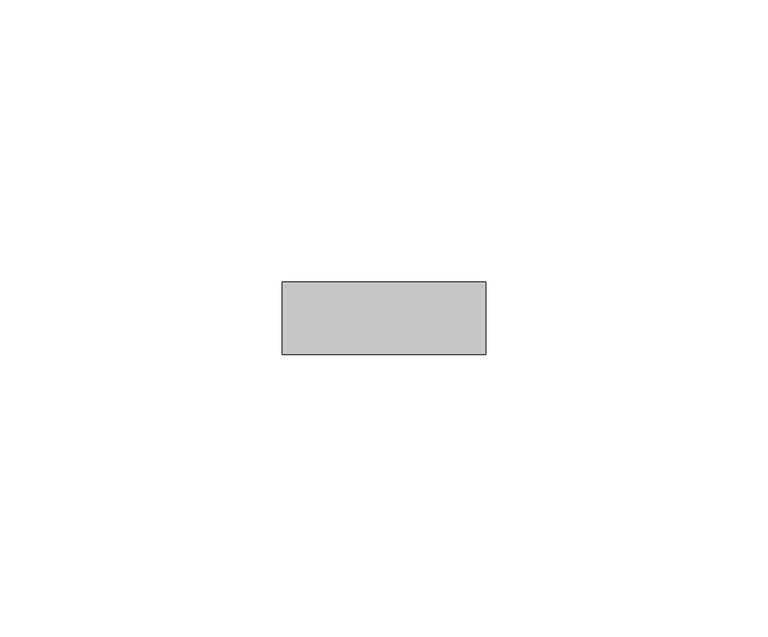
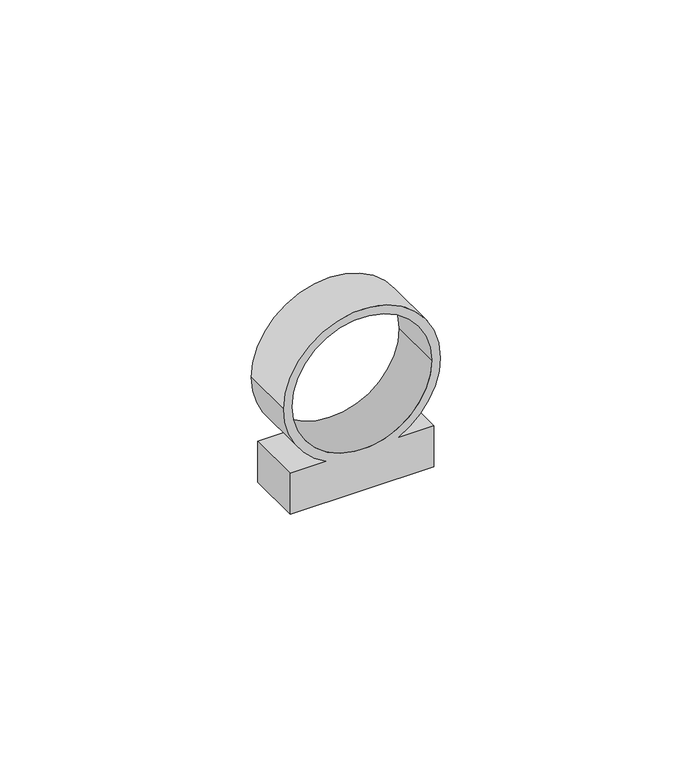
"""IFC4 building model written with IfcOpenShell, lengths in millimetres: cable carrier fitting geometry."""

from ifc_helpers import new_model, si_unit, point, frame, frame_2d, origin, place, context, project, spatial, polyline, circle_curve, trimmed, segment, composite_curve, outline, extrude, source, transform, mapped, element, save


def cable_carrier_fitting_328e0a5f(model_context):
    return source(origin(), model_context, "Body", "SweptSolid", [
        extrude(outline(composite_curve([segment(trimmed(circle_curve(frame_2d((26.0, 0.0)), 18.0), [point((26.0, 18.0))], [point((26.0, -18.0))], False, "CARTESIAN"), True, "CONTINUOUS"), segment(trimmed(circle_curve(frame_2d((26.0, 0.0)), 18.0), [point((26.0, -18.0))], [point((10.0, -8.2462113))], False, "CARTESIAN"), True, "CONTINUOUS"), segment(polyline([(10.0, -8.2462113), (10.0, -16.5), (0.0, -16.5), (0.0, 16.5), (10.0, 16.5), (10.0, 8.2462113)]), True, "CONTINUOUS"), segment(trimmed(circle_curve(frame_2d((26.0, 0.0)), 18.0), [point((10.0, 8.2462113))], [point((26.0, 18.0))], False, "CARTESIAN"), True, "CONTINUOUS")], self_intersect=False), holes=[composite_curve([segment(trimmed(circle_curve(frame_2d((26.0, 0.0)), 16.0), [point((26.0, -16.0))], [point((26.0, 16.0))], True, "CARTESIAN"), True, "CONTINUOUS"), segment(trimmed(circle_curve(frame_2d((26.0, 0.0)), 16.0), [point((26.0, 16.0))], [point((26.0, -16.0))], True, "CARTESIAN"), True, "CONTINUOUS")], self_intersect=False)]), frame((0.0, -6.4, 0.0), z_axis=(0.0, 1.0, 0.0), x_axis=(0.0, 0.0, 1.0)), (0.0, 0.0, 1.0), 12.8),
    ])


if __name__ == "__main__":
    model = new_model("IFC4")
    model_context = context("Model", 3, world=origin())
    ifc_project = project(units=[si_unit("LENGTHUNIT", "METRE", prefix="MILLI")], contexts=[model_context])
    site = spatial("IfcSite", under=ifc_project)
    building = spatial("IfcBuilding", under=site)
    placement = place(None, origin())
    cable_carrier_fitting_shape = cable_carrier_fitting_328e0a5f(model_context)
    element("IfcCableCarrierFitting", 1, at=placement, inside=building, context=model_context, shape_type="MappedRepresentation", body=[
        mapped(cable_carrier_fitting_shape, transform((0.0, 0.0, 0.0), x_axis=(1.0, 0.0, 0.0), y_axis=(0.0, 1.0, 0.0), z_axis=(0.0, 0.0, 1.0))),
    ])
    save(model, "model.ifc")
